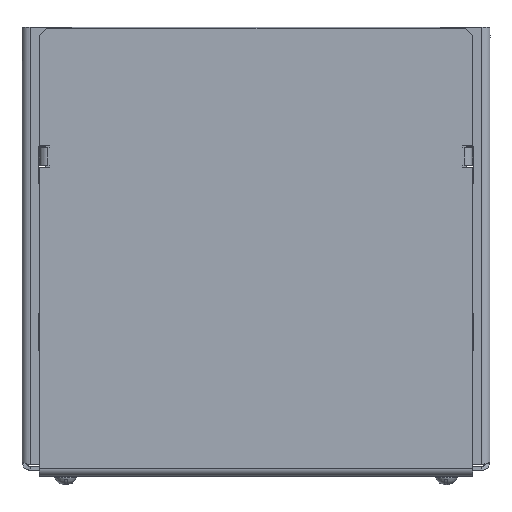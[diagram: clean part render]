
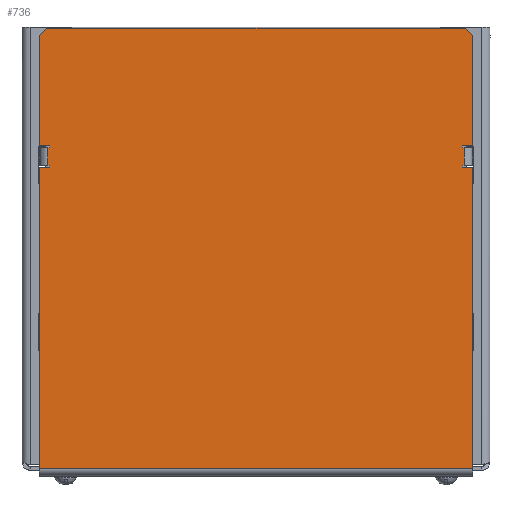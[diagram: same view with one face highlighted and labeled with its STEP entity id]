
A CAD part, left-side view. The second image highlights one B-rep face of the part: STEP entity #736.
In plain terms, the highlighted planar face has unit normal (-1, 0, 0).
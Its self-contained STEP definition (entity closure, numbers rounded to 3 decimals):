
#736=ADVANCED_FACE('',(#5101),#5103,.T.);
#5101=FACE_BOUND('',#5102,.T.);
#5102=EDGE_LOOP('',(#9817,#9818,#9819,#9820,#9821,#9822,#9823,#9824,#9825,#9826,
#9827,#9828,#9829,#9830,#9831,#9832,#9833,#9834,#9835,#9836,#9837,#9838));
#5103=PLANE('',#5104);
#5104=AXIS2_PLACEMENT_3D('',#5105,#5106,#5107);
#5105=CARTESIAN_POINT('',(-115.,0.,-91.5));
#5106=DIRECTION('',(-1.,0.,0.));
#5107=DIRECTION('',(0.,0.,1.));
#9817=ORIENTED_EDGE('',*,*,#12079,.T.);
#9818=ORIENTED_EDGE('',*,*,#12080,.T.);
#9819=ORIENTED_EDGE('',*,*,#12081,.T.);
#9820=ORIENTED_EDGE('',*,*,#12082,.T.);
#9821=ORIENTED_EDGE('',*,*,#12083,.T.);
#9822=ORIENTED_EDGE('',*,*,#12084,.T.);
#9823=ORIENTED_EDGE('',*,*,#12085,.T.);
#9824=ORIENTED_EDGE('',*,*,#12086,.T.);
#9825=ORIENTED_EDGE('',*,*,#12087,.T.);
#9826=ORIENTED_EDGE('',*,*,#12088,.T.);
#9827=ORIENTED_EDGE('',*,*,#12089,.T.);
#9828=ORIENTED_EDGE('',*,*,#12090,.T.);
#9829=ORIENTED_EDGE('',*,*,#12091,.T.);
#9830=ORIENTED_EDGE('',*,*,#12092,.T.);
#9831=ORIENTED_EDGE('',*,*,#12093,.T.);
#9832=ORIENTED_EDGE('',*,*,#12094,.T.);
#9833=ORIENTED_EDGE('',*,*,#12095,.T.);
#9834=ORIENTED_EDGE('',*,*,#12096,.T.);
#9835=ORIENTED_EDGE('',*,*,#12097,.T.);
#9836=ORIENTED_EDGE('',*,*,#12098,.T.);
#9837=ORIENTED_EDGE('',*,*,#12099,.T.);
#9838=ORIENTED_EDGE('',*,*,#12100,.T.);
#12079=EDGE_CURVE('',#14859,#14860,#14861,.T.);
#12080=EDGE_CURVE('',#14860,#14862,#14863,.T.);
#12081=EDGE_CURVE('',#14862,#14864,#14865,.T.);
#12082=EDGE_CURVE('',#14864,#14866,#14867,.T.);
#12083=EDGE_CURVE('',#14866,#14868,#14869,.T.);
#12084=EDGE_CURVE('',#14868,#14870,#14871,.T.);
#12085=EDGE_CURVE('',#14870,#14872,#14873,.T.);
#12086=EDGE_CURVE('',#14872,#14874,#14875,.T.);
#12087=EDGE_CURVE('',#14874,#14876,#14877,.T.);
#12088=EDGE_CURVE('',#14876,#14878,#14879,.T.);
#12089=EDGE_CURVE('',#14878,#14880,#14881,.T.);
#12090=EDGE_CURVE('',#14880,#14882,#14883,.T.);
#12091=EDGE_CURVE('',#14882,#14884,#14885,.T.);
#12092=EDGE_CURVE('',#14884,#14886,#14887,.T.);
#12093=EDGE_CURVE('',#14886,#14888,#14889,.T.);
#12094=EDGE_CURVE('',#14888,#14890,#14891,.T.);
#12095=EDGE_CURVE('',#14890,#14892,#14893,.T.);
#12096=EDGE_CURVE('',#14892,#14894,#14895,.T.);
#12097=EDGE_CURVE('',#14894,#14896,#14897,.T.);
#12098=EDGE_CURVE('',#14896,#14898,#14899,.T.);
#12099=EDGE_CURVE('',#14898,#14900,#14901,.T.);
#12100=EDGE_CURVE('',#14900,#14859,#14902,.T.);
#14859=VERTEX_POINT('',#22071);
#14860=VERTEX_POINT('',#22072);
#14861=LINE('',#22073,#22074);
#14862=VERTEX_POINT('',#22076);
#14863=LINE('',#22077,#22078);
#14864=VERTEX_POINT('',#22080);
#14865=LINE('',#22081,#22082);
#14866=VERTEX_POINT('',#22084);
#14867=LINE('',#22085,#22086);
#14868=VERTEX_POINT('',#22088);
#14869=LINE('',#22089,#22090);
#14870=VERTEX_POINT('',#22092);
#14871=LINE('',#22093,#22094);
#14872=VERTEX_POINT('',#22096);
#14873=LINE('',#22097,#22098);
#14874=VERTEX_POINT('',#22100);
#14875=LINE('',#22101,#22102);
#14876=VERTEX_POINT('',#22104);
#14877=LINE('',#22105,#22106);
#14878=VERTEX_POINT('',#22108);
#14879=LINE('',#22109,#22110);
#14880=VERTEX_POINT('',#22112);
#14881=LINE('',#22113,#22114);
#14882=VERTEX_POINT('',#22116);
#14883=LINE('',#22117,#22118);
#14884=VERTEX_POINT('',#22120);
#14885=LINE('',#22121,#22122);
#14886=VERTEX_POINT('',#22124);
#14887=LINE('',#22125,#22126);
#14888=VERTEX_POINT('',#22128);
#14889=LINE('',#22129,#22130);
#14890=VERTEX_POINT('',#22132);
#14891=LINE('',#22133,#22134);
#14892=VERTEX_POINT('',#22136);
#14893=LINE('',#22137,#22138);
#14894=VERTEX_POINT('',#22140);
#14895=LINE('',#22141,#22142);
#14896=VERTEX_POINT('',#22144);
#14897=LINE('',#22145,#22146);
#14898=VERTEX_POINT('',#22148);
#14899=LINE('',#22149,#22150);
#14900=VERTEX_POINT('',#22152);
#14901=LINE('',#22153,#22154);
#14902=LINE('',#22156,#22157);
#22071=CARTESIAN_POINT('',(-115.,-84.,88.5));
#22072=CARTESIAN_POINT('',(-115.,84.,88.5));
#22073=CARTESIAN_POINT('',(-115.,-84.,88.5));
#22074=VECTOR('',#22075,1.);
#22075=DIRECTION('',(0.,1.,0.));
#22076=CARTESIAN_POINT('',(-115.,87.,85.5));
#22077=CARTESIAN_POINT('',(-115.,84.,88.5));
#22078=VECTOR('',#22079,1.);
#22079=DIRECTION('',(0.,0.707,-0.707));
#22080=CARTESIAN_POINT('',(-115.,87.,41.25));
#22081=CARTESIAN_POINT('',(-115.,87.,85.5));
#22082=VECTOR('',#22083,1.);
#22083=DIRECTION('',(0.,0.,-1.));
#22084=CARTESIAN_POINT('',(-115.,82.95,41.25));
#22085=CARTESIAN_POINT('',(-115.,87.,41.25));
#22086=VECTOR('',#22087,1.);
#22087=DIRECTION('',(0.,-1.,0.));
#22088=CARTESIAN_POINT('',(-115.,82.95,40.5));
#22089=CARTESIAN_POINT('',(-115.,82.95,41.25));
#22090=VECTOR('',#22091,1.);
#22091=DIRECTION('',(0.,0.,-1.));
#22092=CARTESIAN_POINT('',(-115.,83.7,40.5));
#22093=CARTESIAN_POINT('',(-115.,82.95,40.5));
#22094=VECTOR('',#22095,1.);
#22095=DIRECTION('',(0.,1.,0.));
#22096=CARTESIAN_POINT('',(-115.,83.7,33.5));
#22097=CARTESIAN_POINT('',(-115.,83.7,40.5));
#22098=VECTOR('',#22099,1.);
#22099=DIRECTION('',(0.,0.,-1.));
#22100=CARTESIAN_POINT('',(-115.,82.95,33.5));
#22101=CARTESIAN_POINT('',(-115.,83.7,33.5));
#22102=VECTOR('',#22103,1.);
#22103=DIRECTION('',(0.,-1.,0.));
#22104=CARTESIAN_POINT('',(-115.,82.95,32.75));
#22105=CARTESIAN_POINT('',(-115.,82.95,33.5));
#22106=VECTOR('',#22107,1.);
#22107=DIRECTION('',(0.,0.,-1.));
#22108=CARTESIAN_POINT('',(-115.,87.,32.75));
#22109=CARTESIAN_POINT('',(-115.,82.95,32.75));
#22110=VECTOR('',#22111,1.);
#22111=DIRECTION('',(0.,1.,0.));
#22112=CARTESIAN_POINT('',(-115.,87.,-88.2));
#22113=CARTESIAN_POINT('',(-115.,87.,32.75));
#22114=VECTOR('',#22115,1.);
#22115=DIRECTION('',(0.,0.,-1.));
#22116=CARTESIAN_POINT('',(-115.,-87.,-88.2));
#22117=CARTESIAN_POINT('',(-115.,87.,-88.2));
#22118=VECTOR('',#22119,1.);
#22119=DIRECTION('',(0.,-1.,0.));
#22120=CARTESIAN_POINT('',(-115.,-87.,32.75));
#22121=CARTESIAN_POINT('',(-115.,-87.,-88.2));
#22122=VECTOR('',#22123,1.);
#22123=DIRECTION('',(0.,0.,1.));
#22124=CARTESIAN_POINT('',(-115.,-82.95,32.75));
#22125=CARTESIAN_POINT('',(-115.,-87.,32.75));
#22126=VECTOR('',#22127,1.);
#22127=DIRECTION('',(0.,1.,0.));
#22128=CARTESIAN_POINT('',(-115.,-82.95,33.5));
#22129=CARTESIAN_POINT('',(-115.,-82.95,32.75));
#22130=VECTOR('',#22131,1.);
#22131=DIRECTION('',(0.,0.,1.));
#22132=CARTESIAN_POINT('',(-115.,-83.7,33.5));
#22133=CARTESIAN_POINT('',(-115.,-82.95,33.5));
#22134=VECTOR('',#22135,1.);
#22135=DIRECTION('',(0.,-1.,0.));
#22136=CARTESIAN_POINT('',(-115.,-83.7,40.5));
#22137=CARTESIAN_POINT('',(-115.,-83.7,33.5));
#22138=VECTOR('',#22139,1.);
#22139=DIRECTION('',(0.,0.,1.));
#22140=CARTESIAN_POINT('',(-115.,-82.95,40.5));
#22141=CARTESIAN_POINT('',(-115.,-83.7,40.5));
#22142=VECTOR('',#22143,1.);
#22143=DIRECTION('',(0.,1.,0.));
#22144=CARTESIAN_POINT('',(-115.,-82.95,41.25));
#22145=CARTESIAN_POINT('',(-115.,-82.95,40.5));
#22146=VECTOR('',#22147,1.);
#22147=DIRECTION('',(0.,0.,1.));
#22148=CARTESIAN_POINT('',(-115.,-87.,41.25));
#22149=CARTESIAN_POINT('',(-115.,-82.95,41.25));
#22150=VECTOR('',#22151,1.);
#22151=DIRECTION('',(0.,-1.,0.));
#22152=CARTESIAN_POINT('',(-115.,-87.,85.5));
#22153=CARTESIAN_POINT('',(-115.,-87.,41.25));
#22154=VECTOR('',#22155,1.);
#22155=DIRECTION('',(0.,0.,1.));
#22156=CARTESIAN_POINT('',(-115.,-87.,85.5));
#22157=VECTOR('',#22158,1.);
#22158=DIRECTION('',(0.,0.707,0.707));
